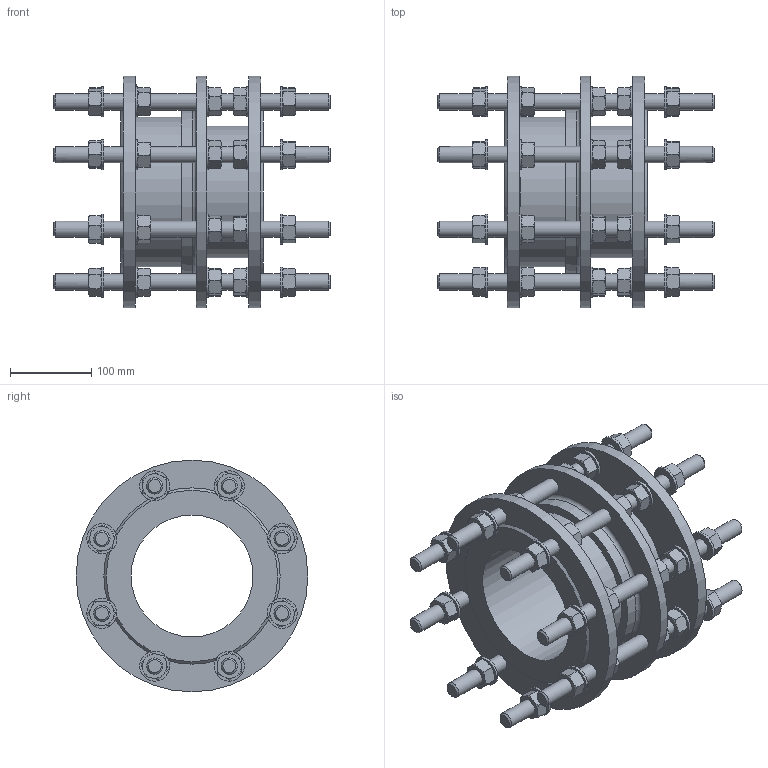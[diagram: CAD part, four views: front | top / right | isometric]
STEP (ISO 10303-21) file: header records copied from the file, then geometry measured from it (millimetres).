
FILE_DESCRIPTION (( 'STEP AP203' ), '1' );
FILE_NAME ('O_265_910_DN150_1XXXXX00_L=175_REV01.step', '2024-10-11T08:18:10', ( '' ), ( '' ), 'SwSTEP 2.0', 'SolidWorks 2022', '' );
FILE_SCHEMA (( 'CONFIG_CONTROL_DESIGN' ));
Length unit declared in the file: millimetre
Products named in the file (1): O_265_910_DN150_1XXXXX00_L=175_REV01
Bounding box: 340 x 285 x 285 mm (x, y, z)
Volume: 4092777.8 mm3; surface area: 642685.3 mm2
Topology: 1 solids, 1 shells, 996 faces, 2168 edges, 1297 vertices
Faces by surface type: cone 499, plane 400, cylinder 96, torus 1
Full cylindrical faces by diameter (mm): 20 x48, 37 x40, 150 x1, 162 x1, 184 x1, 285 x3
Entity records: 29954 total; most frequent: CARTESIAN_POINT 10324, ORIENTED_EDGE 4004, DIRECTION 3731, EDGE_CURVE 2002, AXIS2_PLACEMENT_3D 1692, EDGE_LOOP 1267, VERTEX_POINT 1245, FACE_OUTER_BOUND 1091
